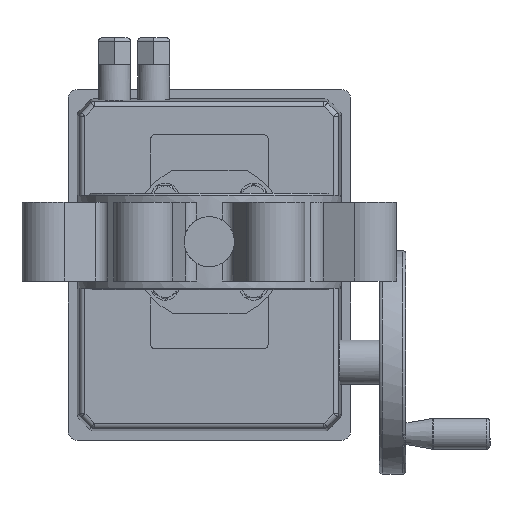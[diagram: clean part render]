
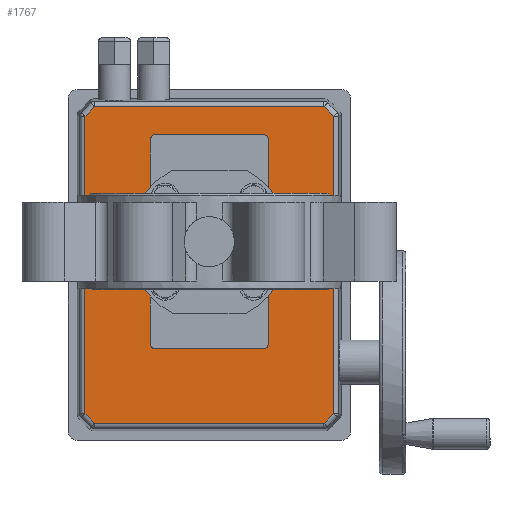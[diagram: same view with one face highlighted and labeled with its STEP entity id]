
A CAD part, front view. The second image highlights one B-rep face of the part: STEP entity #1767.
In plain terms, the highlighted planar face has unit normal (0, -1, 0).
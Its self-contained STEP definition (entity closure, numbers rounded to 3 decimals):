
#163 = VERTEX_POINT ( 'NONE', #16060 ) ;
#307 = VECTOR ( 'NONE', #23187, 1000. ) ;
#347 = FACE_OUTER_BOUND ( 'NONE', #3015, .T. ) ;
#632 = CARTESIAN_POINT ( 'NONE',  ( -60., -45., 30. ) ) ;
#1257 = CARTESIAN_POINT ( 'NONE',  ( 101.531, -45., 64.149 ) ) ;
#1519 = CARTESIAN_POINT ( 'NONE',  ( 57., -45., -30. ) ) ;
#1531 = CARTESIAN_POINT ( 'NONE',  ( 96.149, -45., 69.531 ) ) ;
#1767 = ADVANCED_FACE ( 'NONE', ( #347, #19063 ), #12259, .F. ) ;
#1771 = VECTOR ( 'NONE', #8471, 1000. ) ;
#1849 = CARTESIAN_POINT ( 'NONE',  ( -76.38, -45., 63.301 ) ) ;
#1911 = CIRCLE ( 'NONE', #21633, 3. ) ;
#1955 = CARTESIAN_POINT ( 'NONE',  ( -60., -45., 0. ) ) ;
#1981 = LINE ( 'NONE', #24862, #1771 ) ;
#2482 = VERTEX_POINT ( 'NONE', #20757 ) ;
#2613 = VERTEX_POINT ( 'NONE', #7910 ) ;
#3015 = EDGE_LOOP ( 'NONE', ( #11155, #28186, #3049, #25451, #16252, #9286, #15862, #20356 ) ) ;
#3033 = VECTOR ( 'NONE', #28377, 1000. ) ;
#3049 = ORIENTED_EDGE ( 'NONE', *, *, #9271, .T. ) ;
#3098 = LINE ( 'NONE', #7604, #22645 ) ;
#3186 = AXIS2_PLACEMENT_3D ( 'NONE', #18417, #27379, #20590 ) ;
#3438 = LINE ( 'NONE', #15461, #27032 ) ;
#3732 = EDGE_CURVE ( 'NONE', #2482, #8620, #3438, .T. ) ;
#4085 = LINE ( 'NONE', #15658, #25500 ) ;
#4288 = LINE ( 'NONE', #1955, #22918 ) ;
#4348 = LINE ( 'NONE', #12046, #25214 ) ;
#4370 = VERTEX_POINT ( 'NONE', #14925 ) ;
#4473 = VERTEX_POINT ( 'NONE', #7502 ) ;
#5029 = CARTESIAN_POINT ( 'NONE',  ( 82.84, -45., -82.84 ) ) ;
#5228 = EDGE_CURVE ( 'NONE', #17055, #2613, #18951, .T. ) ;
#5241 = VERTEX_POINT ( 'NONE', #30060 ) ;
#5906 = DIRECTION ( 'NONE',  ( 1., 0., 0. ) ) ;
#6089 = DIRECTION ( 'NONE',  ( 0.707, 0., -0.707 ) ) ;
#6090 = VECTOR ( 'NONE', #21038, 1000. ) ;
#6878 = VERTEX_POINT ( 'NONE', #1257 ) ;
#7029 = DIRECTION ( 'NONE',  ( 0., 1., 0. ) ) ;
#7502 = CARTESIAN_POINT ( 'NONE',  ( -75.531, -45., -64.149 ) ) ;
#7604 = CARTESIAN_POINT ( 'NONE',  ( -71.349, -45., 69.531 ) ) ;
#7710 = VERTEX_POINT ( 'NONE', #28047 ) ;
#7910 = CARTESIAN_POINT ( 'NONE',  ( -60., -45., -30. ) ) ;
#7915 = CARTESIAN_POINT ( 'NONE',  ( 0., -45., -69.531 ) ) ;
#8471 = DIRECTION ( 'NONE',  ( 1., 0., 0. ) ) ;
#8620 = VERTEX_POINT ( 'NONE', #23980 ) ;
#8744 = EDGE_CURVE ( 'NONE', #25369, #4370, #16524, .T. ) ;
#9183 = DIRECTION ( 'NONE',  ( 0., 0., 1. ) ) ;
#9271 = EDGE_CURVE ( 'NONE', #15869, #7710, #24750, .T. ) ;
#9286 = ORIENTED_EDGE ( 'NONE', *, *, #10371, .T. ) ;
#9288 = LINE ( 'NONE', #20585, #307 ) ;
#9344 = DIRECTION ( 'NONE',  ( 0., 0., 1. ) ) ;
#9427 = DIRECTION ( 'NONE',  ( 0., 0., -1. ) ) ;
#9565 = AXIS2_PLACEMENT_3D ( 'NONE', #11355, #30186, #20174 ) ;
#10005 = VERTEX_POINT ( 'NONE', #17738 ) ;
#10371 = EDGE_CURVE ( 'NONE', #6878, #20904, #19022, .T. ) ;
#10990 = EDGE_CURVE ( 'NONE', #25369, #2613, #4288, .T. ) ;
#11038 = CARTESIAN_POINT ( 'NONE',  ( 57., -45., 30. ) ) ;
#11155 = ORIENTED_EDGE ( 'NONE', *, *, #18026, .T. ) ;
#11355 = CARTESIAN_POINT ( 'NONE',  ( -57., -45., -30. ) ) ;
#11373 = DIRECTION ( 'NONE',  ( 0., 0., -1. ) ) ;
#11962 = CARTESIAN_POINT ( 'NONE',  ( 57., -45., -33. ) ) ;
#12046 = CARTESIAN_POINT ( 'NONE',  ( -75.531, -45., -65.349 ) ) ;
#12259 = PLANE ( 'NONE',  #22259 ) ;
#13038 = EDGE_LOOP ( 'NONE', ( #21910, #18584, #25066, #26923, #21771, #22803, #25611, #23369 ) ) ;
#13344 = EDGE_CURVE ( 'NONE', #163, #2482, #17083, .T. ) ;
#13438 = LINE ( 'NONE', #1849, #26990 ) ;
#13799 = EDGE_CURVE ( 'NONE', #10005, #17297, #13438, .T. ) ;
#13822 = DIRECTION ( 'NONE',  ( 0., 1., 0. ) ) ;
#14123 = AXIS2_PLACEMENT_3D ( 'NONE', #11038, #13822, #9344 ) ;
#14925 = CARTESIAN_POINT ( 'NONE',  ( -57., -45., 33. ) ) ;
#15461 = CARTESIAN_POINT ( 'NONE',  ( 60., -45., 0. ) ) ;
#15658 = CARTESIAN_POINT ( 'NONE',  ( -69.84, -45., -69.84 ) ) ;
#15712 = EDGE_CURVE ( 'NONE', #20904, #10005, #3098, .T. ) ;
#15862 = ORIENTED_EDGE ( 'NONE', *, *, #15712, .T. ) ;
#15869 = VERTEX_POINT ( 'NONE', #19949 ) ;
#15906 = DIRECTION ( 'NONE',  ( -0.707, 0., -0.707 ) ) ;
#16060 = CARTESIAN_POINT ( 'NONE',  ( 57., -45., 33. ) ) ;
#16215 = VERTEX_POINT ( 'NONE', #11962 ) ;
#16252 = ORIENTED_EDGE ( 'NONE', *, *, #18596, .T. ) ;
#16338 = EDGE_CURVE ( 'NONE', #8620, #16215, #1911, .T. ) ;
#16524 = CIRCLE ( 'NONE', #3186, 3. ) ;
#16844 = CARTESIAN_POINT ( 'NONE',  ( 82.84, -45., 82.84 ) ) ;
#17055 = VERTEX_POINT ( 'NONE', #17259 ) ;
#17083 = CIRCLE ( 'NONE', #14123, 3. ) ;
#17259 = CARTESIAN_POINT ( 'NONE',  ( -57., -45., -33. ) ) ;
#17297 = VERTEX_POINT ( 'NONE', #24289 ) ;
#17650 = DIRECTION ( 'NONE',  ( 0., 0., -1. ) ) ;
#17738 = CARTESIAN_POINT ( 'NONE',  ( -70.149, -45., 69.531 ) ) ;
#18026 = EDGE_CURVE ( 'NONE', #17297, #4473, #4348, .T. ) ;
#18417 = CARTESIAN_POINT ( 'NONE',  ( -57., -45., 30. ) ) ;
#18584 = ORIENTED_EDGE ( 'NONE', *, *, #8744, .T. ) ;
#18596 = EDGE_CURVE ( 'NONE', #5241, #6878, #20907, .T. ) ;
#18812 = LINE ( 'NONE', #5029, #3033 ) ;
#18951 = CIRCLE ( 'NONE', #9565, 3. ) ;
#19022 = LINE ( 'NONE', #16844, #6090 ) ;
#19063 = FACE_BOUND ( 'NONE', #13038, .T. ) ;
#19213 = CARTESIAN_POINT ( 'NONE',  ( 0., -45., 0. ) ) ;
#19812 = EDGE_CURVE ( 'NONE', #4370, #163, #9288, .T. ) ;
#19949 = CARTESIAN_POINT ( 'NONE',  ( -70.149, -45., -69.531 ) ) ;
#20174 = DIRECTION ( 'NONE',  ( 0., 0., 1. ) ) ;
#20356 = ORIENTED_EDGE ( 'NONE', *, *, #13799, .T. ) ;
#20585 = CARTESIAN_POINT ( 'NONE',  ( 0., -45., 33. ) ) ;
#20590 = DIRECTION ( 'NONE',  ( 0., 0., 1. ) ) ;
#20757 = CARTESIAN_POINT ( 'NONE',  ( 60., -45., 30. ) ) ;
#20904 = VERTEX_POINT ( 'NONE', #1531 ) ;
#20907 = LINE ( 'NONE', #30342, #27720 ) ;
#21038 = DIRECTION ( 'NONE',  ( -0.707, 0., 0.707 ) ) ;
#21633 = AXIS2_PLACEMENT_3D ( 'NONE', #1519, #7029, #23251 ) ;
#21771 = ORIENTED_EDGE ( 'NONE', *, *, #3732, .T. ) ;
#21910 = ORIENTED_EDGE ( 'NONE', *, *, #10990, .F. ) ;
#22259 = AXIS2_PLACEMENT_3D ( 'NONE', #19213, #26015, #23405 ) ;
#22645 = VECTOR ( 'NONE', #26434, 1000. ) ;
#22803 = ORIENTED_EDGE ( 'NONE', *, *, #16338, .T. ) ;
#22918 = VECTOR ( 'NONE', #11373, 1000. ) ;
#23187 = DIRECTION ( 'NONE',  ( 1., 0., 0. ) ) ;
#23251 = DIRECTION ( 'NONE',  ( 0., 0., 1. ) ) ;
#23369 = ORIENTED_EDGE ( 'NONE', *, *, #5228, .T. ) ;
#23405 = DIRECTION ( 'NONE',  ( 0., 0., 1. ) ) ;
#23980 = CARTESIAN_POINT ( 'NONE',  ( 60., -45., -30. ) ) ;
#24289 = CARTESIAN_POINT ( 'NONE',  ( -75.531, -45., 64.149 ) ) ;
#24554 = EDGE_CURVE ( 'NONE', #17055, #16215, #1981, .T. ) ;
#24750 = LINE ( 'NONE', #7915, #25859 ) ;
#24862 = CARTESIAN_POINT ( 'NONE',  ( 0., -45., -33. ) ) ;
#25066 = ORIENTED_EDGE ( 'NONE', *, *, #19812, .T. ) ;
#25203 = EDGE_CURVE ( 'NONE', #4473, #15869, #4085, .T. ) ;
#25214 = VECTOR ( 'NONE', #9427, 1000. ) ;
#25369 = VERTEX_POINT ( 'NONE', #632 ) ;
#25451 = ORIENTED_EDGE ( 'NONE', *, *, #27400, .T. ) ;
#25500 = VECTOR ( 'NONE', #6089, 1000. ) ;
#25611 = ORIENTED_EDGE ( 'NONE', *, *, #24554, .F. ) ;
#25859 = VECTOR ( 'NONE', #5906, 1000. ) ;
#26015 = DIRECTION ( 'NONE',  ( 0., 1., 0. ) ) ;
#26434 = DIRECTION ( 'NONE',  ( -1., 0., 0. ) ) ;
#26923 = ORIENTED_EDGE ( 'NONE', *, *, #13344, .T. ) ;
#26990 = VECTOR ( 'NONE', #15906, 1000. ) ;
#27032 = VECTOR ( 'NONE', #17650, 1000. ) ;
#27379 = DIRECTION ( 'NONE',  ( 0., 1., 0. ) ) ;
#27400 = EDGE_CURVE ( 'NONE', #7710, #5241, #18812, .T. ) ;
#27720 = VECTOR ( 'NONE', #9183, 1000. ) ;
#28047 = CARTESIAN_POINT ( 'NONE',  ( 96.149, -45., -69.531 ) ) ;
#28186 = ORIENTED_EDGE ( 'NONE', *, *, #25203, .T. ) ;
#28377 = DIRECTION ( 'NONE',  ( 0.707, 0., 0.707 ) ) ;
#30060 = CARTESIAN_POINT ( 'NONE',  ( 101.531, -45., -64.149 ) ) ;
#30186 = DIRECTION ( 'NONE',  ( 0., 1., 0. ) ) ;
#30342 = CARTESIAN_POINT ( 'NONE',  ( 101.531, -45., 0. ) ) ;
